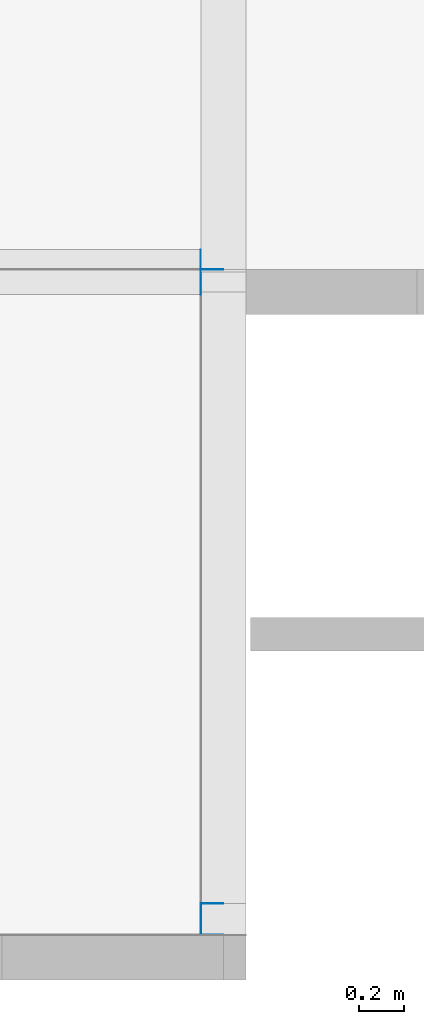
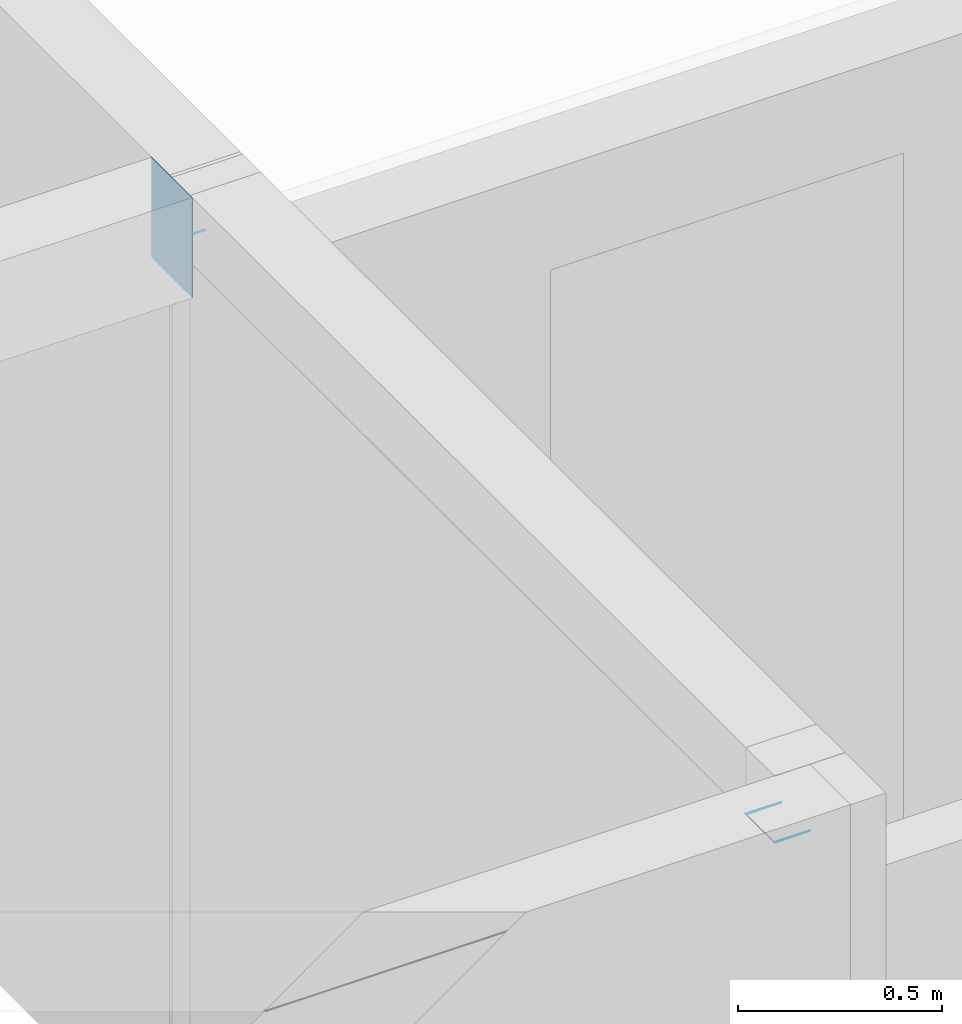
# One storey, part 4 of 11: 5 beams.
"""IFC2X3 building model written with IfcOpenShell, lengths in metres."""

import ifcopenshell
import ifcopenshell.guid

model = None  # the IFC model being written
_history = None  # IfcOwnerHistory: only IFC2X3 demands one
_inside = {}  # id of a spatial element -> (the spatial element, [elements in it])
_under = {}  # id of a project, library or spatial element -> (it, [spatial elements below it])
_declared = {}  # id of a project -> (the project, [libraries it declares])
_typed = {}  # id of a type object -> (the type object, [elements of that type])
_made_of = {}  # id of a material, layer set ... -> (it, [elements and type objects made of it])


def new_model(schema):
    """Start an empty IFC model of exactly this schema.

    Asked for "IFC4X3", IfcOpenShell would pick the latest addendum, in which some entities
    have other attributes; the version numbers below select the first issue.
    IFC2X3 requires an IfcOwnerHistory on every rooted entity: one is made here for all.
    """
    global model, _history
    if schema == "IFC4X3":
        model = ifcopenshell.file(schema_version=(4, 3, 0, 0))
    else:
        model = ifcopenshell.file(schema=schema)
    _inside.clear()
    _under.clear()
    _declared.clear()
    _typed.clear()
    _made_of.clear()
    _history = None
    if model.schema == "IFC2X3":
        org = make("IfcOrganization", Name="unknown")
        user = make(
            "IfcPersonAndOrganization",
            ThePerson=make("IfcPerson", FamilyName="unknown"),
            TheOrganization=org,
        )
        app = make(
            "IfcApplication",
            ApplicationDeveloper=org,
            Version="unknown",
            ApplicationFullName="unknown",
            ApplicationIdentifier="unknown",
        )
        _history = make(
            "IfcOwnerHistory",
            OwningUser=user,
            OwningApplication=app,
            ChangeAction="ADDED",
            CreationDate=0,
        )
    return model


def make(cls, **values):
    """One entity of the class cls with the attributes given. An attribute that is None is left unset."""
    return model.create_entity(
        cls, **{name: value for name, value in values.items() if value is not None}
    )


def rooted(cls, **values):
    """An entity with a GlobalId (a new one), such as an element, a storey or a relation."""
    return make(cls, GlobalId=ifcopenshell.guid.new(), OwnerHistory=_history, **values)


def si_unit(unit_type, name, prefix=None):
    """IfcSIUnit, for example si_unit("LENGTHUNIT", "METRE", prefix="MILLI")."""
    return make("IfcSIUnit", UnitType=unit_type, Prefix=prefix, Name=name)


def assignment(units):
    """IfcUnitAssignment: the units of a project."""
    return None if units is None else make("IfcUnitAssignment", Units=units)


def point(xyz):
    """IfcCartesianPoint."""
    return None if xyz is None else make("IfcCartesianPoint", Coordinates=xyz)


def direction(xyz):
    """IfcDirection."""
    return None if xyz is None else make("IfcDirection", DirectionRatios=xyz)


def frame(location, z_axis=None, x_axis=None):
    """IfcAxis2Placement3D, a coordinate frame: its origin and axes. An axis left out is left unset."""
    return make(
        "IfcAxis2Placement3D",
        Location=point(location),
        Axis=direction(z_axis),
        RefDirection=direction(x_axis),
    )


def origin_with_axes():
    """The frame at (0, 0, 0) with the z axis (0, 0, 1) and the x axis (1, 0, 0) written out."""
    return frame((0.0, 0.0, 0.0), z_axis=(0.0, 0.0, 1.0), x_axis=(1.0, 0.0, 0.0))


def place(relative_to, where):
    """IfcLocalPlacement: puts the frame where relative to a parent placement (None: the world)."""
    return make(
        "IfcLocalPlacement", PlacementRelTo=relative_to, RelativePlacement=where
    )


def context(
    kind, dimensions, precision=None, world=None, true_north=None, identifier=None
):
    """IfcGeometricRepresentationContext, for example the 3D "Model" context."""
    return make(
        "IfcGeometricRepresentationContext",
        ContextIdentifier=identifier,
        ContextType=kind,
        CoordinateSpaceDimension=dimensions,
        Precision=precision,
        WorldCoordinateSystem=world,
        TrueNorth=true_north,
    )


def subcontext(parent, identifier, kind, view, scale=None):
    """IfcGeometricRepresentationSubContext, for example "Body" below "Model"."""
    return make(
        "IfcGeometricRepresentationSubContext",
        ContextIdentifier=identifier,
        ContextType=kind,
        ParentContext=parent,
        TargetScale=scale,
        TargetView=view,
    )


def project(units=None, contexts=None):
    """IfcProject with its units and contexts."""
    return rooted(
        "IfcProject",
        Name="project",
        RepresentationContexts=contexts,
        UnitsInContext=assignment(units),
    )


def spatial(cls, under=None, at=None, **own):
    """A site, building, storey or space (cls), placed at a placement, below another one or the project."""
    s = rooted(cls, ObjectPlacement=at, **own)
    if under is not None:
        _under.setdefault(under.id(), (under, []))[1].append(s)
    return s


def polyline(points):
    """IfcPolyline through the points."""
    return make("IfcPolyline", Points=[point(p) for p in points])


def outline(outer, holes=None, kind="AREA"):
    """IfcArbitraryClosedProfileDef: a profile drawn as a closed curve; with holes, ...WithVoids."""
    if holes is None:
        return make("IfcArbitraryClosedProfileDef", ProfileType=kind, OuterCurve=outer)
    return make(
        "IfcArbitraryProfileDefWithVoids",
        ProfileType=kind,
        OuterCurve=outer,
        InnerCurves=holes,
    )


def extrude(swept, where, along, depth):
    """IfcExtrudedAreaSolid: the profile swept, set in the frame where, extruded along a direction by depth."""
    return make(
        "IfcExtrudedAreaSolid",
        SweptArea=swept,
        Position=where,
        ExtrudedDirection=direction(along),
        Depth=depth,
    )


def shape(context_of_items, identifier, shape_type, items):
    """IfcShapeRepresentation: the items that make up one representation, for example the "Body"."""
    return make(
        "IfcShapeRepresentation",
        ContextOfItems=context_of_items,
        RepresentationIdentifier=identifier,
        RepresentationType=shape_type,
        Items=items,
    )


def material(Name=None, Category=None):
    """IfcMaterial."""
    return make("IfcMaterial", Name=Name, Category=Category)


def made_of(thing, what):
    """Note that an element or type object is made of a material, layer set ...; save() writes the relation."""
    if what is not None:
        _made_of.setdefault(what.id(), (what, []))[1].append(thing)
    return thing


def type_object(cls, material=None, **own):
    """A type object (cls), such as IfcWallType, which elements share."""
    return made_of(rooted(cls, **own), material)


def element(
    cls,
    number,
    at=None,
    inside=None,
    cuts=None,
    type_object=None,
    material=None,
    context=None,
    identifier="Body",
    shape_type=None,
    held_by="IfcProductDefinitionShape",
    body=None,
    shapes=None,
    **own,
):
    """One element of the class cls, such as IfcWall. Its Tag is "e" and its number.

    at: its placement. inside: the storey or other place that contains it. cuts: it is an
    opening in that element (IfcRelVoidsElement). A single representation is given by context,
    identifier, shape_type and body (its items); several are given by shapes. held_by: the class
    of the entity that holds the representations. save() writes the other relations.
    """
    e = rooted(cls, Tag="e%d" % number, ObjectPlacement=at, **own)
    if body is not None:
        shapes = [shape(context, identifier, shape_type, body)]
    if shapes is not None:
        e.Representation = make(held_by, Representations=shapes)
    if inside is not None:
        _inside.setdefault(inside.id(), (inside, []))[1].append(e)
    if cuts is not None:
        rooted(
            "IfcRelVoidsElement", RelatingBuildingElement=cuts, RelatedOpeningElement=e
        )
    if type_object is not None:
        _typed.setdefault(type_object.id(), (type_object, []))[1].append(e)
    return made_of(e, material)


def aggregate(whole, parts):
    """IfcRelAggregates: a whole, such as a stair, and the parts it consists of."""
    return rooted("IfcRelAggregates", RelatingObject=whole, RelatedObjects=parts)


def save(model, path):
    """Write the relations noted so far, then the file.

    IfcRelAggregates (storeys below a building ...), IfcRelContainedInSpatialStructure (elements
    in a storey), IfcRelDefinesByType, IfcRelAssociatesMaterial and IfcRelDeclares: one each for
    every whole, place, type object, material and project.
    """
    for whole, parts in _under.values():
        aggregate(whole, parts)
    for where, things in _inside.values():
        rooted(
            "IfcRelContainedInSpatialStructure",
            RelatedElements=things,
            RelatingStructure=where,
        )
    for kind, things in _typed.values():
        rooted("IfcRelDefinesByType", RelatedObjects=things, RelatingType=kind)
    for what, things in _made_of.values():
        rooted("IfcRelAssociatesMaterial", RelatedObjects=things, RelatingMaterial=what)
    for by, libraries in _declared.values():
        rooted("IfcRelDeclares", RelatingContext=by, RelatedDefinitions=libraries)
    model.write(path)


model = new_model("IFC2X3")

# Units and contexts
model_context = context("Model", 3, precision=0.0001, world=origin_with_axes(), true_north=direction((0.0, 1.0)))
plan_context = context("Plan", 2, precision=0.0001, world=origin_with_axes(), true_north=direction((0.0, 1.0)))
body_context = subcontext(model_context, "Body", "Model", "MODEL_VIEW")
ifc_project = project(units=[si_unit("MASSUNIT", "GRAM", prefix="KILO"), si_unit("AREAUNIT", "SQUARE_METRE"), si_unit("LENGTHUNIT", "METRE"), si_unit("VOLUMEUNIT", "CUBIC_METRE")], contexts=[plan_context, model_context])

# Site, building, storey
site_placement = place(None, origin_with_axes())
site = spatial("IfcSite", under=ifc_project, at=site_placement, Name="$", CompositionType="ELEMENT")
building_placement = place(site_placement, origin_with_axes())
building = spatial("IfcBuilding", under=site, at=building_placement, Name="Classeur ENS Ensemble", CompositionType="ELEMENT")
storey_placement = place(building_placement, frame((-3.040468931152, -16.07714394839, 6.03), z_axis=(0.0, 0.0, 1.0), x_axis=(1.0, 0.0, 0.0)))
storey = spatial("IfcBuildingStorey", under=building, at=storey_placement, Name="003 R+2", CompositionType="ELEMENT", Elevation=6.03)

# Beams
ifc_material = material(Name="Default material")
beam_type = type_object("IfcBeamType", PredefinedType="BEAM")
beam_1_placement = place(storey_placement, frame((13.42597535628, 1.332143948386, 2.5), z_axis=(0.0, 0.0, 1.0), x_axis=(0.0, 1.0, 0.0)))
element("IfcBeam", 1, at=beam_1_placement, inside=storey, type_object=beam_type, material=ifc_material, Name="poutre fictive 250", context=body_context, shape_type="SweptSolid", held_by="IfcProductRepresentation", body=[
    extrude(outline(polyline([(0.0, 0.001000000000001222), (0.0, 0.001000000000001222), (0.0, 0.001000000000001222), (0.1400000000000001, 0.001000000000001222), (0.1400000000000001, 0.001000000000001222), (0.1400000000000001, 0.001000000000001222), (0.1400000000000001, -0.0009999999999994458), (0.1400000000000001, -0.0009999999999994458), (0.1400000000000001, -0.0009999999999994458), (0.0, -0.0009999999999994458), (0.0, -0.0009999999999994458), (0.0, -0.0009999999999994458), (0.0, 0.001000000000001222)])), origin_with_axes(), (0.0, 0.0, 1.0), 0.001),
])
beam_2_placement = place(storey_placement, frame((13.42597535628, 4.285654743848, 2.400000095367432), z_axis=(0.0, 0.0, 1.0), x_axis=(1.0, 0.0, 0.0)))
element("IfcBeam", 2, at=beam_2_placement, inside=storey, type_object=beam_type, material=ifc_material, Name="poutre BA 20 x 30", context=body_context, shape_type="SweptSolid", held_by="IfcProductRepresentation", body=[
    extrude(outline(polyline([(0.0, 0.1000000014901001), (0.0, 0.1000000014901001), (0.0, 0.1000000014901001), (-1.490100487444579e-09, 0.1000000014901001), (-1.490100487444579e-09, 0.1000000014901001), (-1.490100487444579e-09, 0.1000000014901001), (-1.490100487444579e-09, -0.1000000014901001), (-1.490100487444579e-09, -0.1000000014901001), (-1.490100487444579e-09, -0.1000000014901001), (0.0, -0.1000000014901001), (0.0, -0.1000000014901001), (0.0, -0.1000000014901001), (0.0, 0.1000000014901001)])), origin_with_axes(), (0.0, 0.0, 1.0), 0.300000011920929),
])
beam_3_placement = place(storey_placement, frame((13.42597535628, 1.472143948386, 2.5), z_axis=(0.0, 0.0, 1.0), x_axis=(1.0, 0.0, 0.0)))
element("IfcBeam", 3, at=beam_3_placement, inside=storey, type_object=beam_type, material=ifc_material, Name="poutre fictive 250", context=body_context, shape_type="SweptSolid", held_by="IfcProductRepresentation", body=[
    extrude(outline(polyline([(0.0, 0.0009999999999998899), (0.0, 0.0009999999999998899), (0.0, 0.0009999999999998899), (0.09999999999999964, 0.0009999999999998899), (0.09999999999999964, 0.0009999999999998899), (0.09999999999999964, 0.0009999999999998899), (0.09999999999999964, -0.001000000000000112), (0.09999999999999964, -0.001000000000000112), (0.09999999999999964, -0.001000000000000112), (0.0, -0.001000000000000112), (0.0, -0.001000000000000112), (0.0, -0.001000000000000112), (0.0, 0.0009999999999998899)])), origin_with_axes(), (0.0, 0.0, 1.0), 0.001),
])
beam_4_placement = place(storey_placement, frame((13.42597535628, 4.297143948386, 2.5), z_axis=(0.0, 0.0, 1.0), x_axis=(1.0, 0.0, 0.0)))
element("IfcBeam", 4, at=beam_4_placement, inside=storey, type_object=beam_type, material=ifc_material, Name="poutre fictive 250", context=body_context, shape_type="SweptSolid", held_by="IfcProductRepresentation", body=[
    extrude(outline(polyline([(0.0, 0.001000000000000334), (0.0, 0.001000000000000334), (0.0, 0.001000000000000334), (0.09999999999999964, 0.001000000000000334), (0.09999999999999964, 0.001000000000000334), (0.09999999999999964, 0.001000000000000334), (0.09999999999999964, -0.0009999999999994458), (0.09999999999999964, -0.0009999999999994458), (0.09999999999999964, -0.0009999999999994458), (0.0, -0.0009999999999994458), (0.0, -0.0009999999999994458), (0.0, -0.0009999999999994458), (0.0, 0.001000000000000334)])), origin_with_axes(), (0.0, 0.0, 1.0), 0.001),
])
beam_5_placement = place(storey_placement, frame((13.42597535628, 1.332143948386, 2.5), z_axis=(0.0, 0.0, 1.0), x_axis=(1.0, 0.0, 0.0)))
element("IfcBeam", 5, at=beam_5_placement, inside=storey, type_object=beam_type, material=ifc_material, Name="poutre fictive 250", context=body_context, shape_type="SweptSolid", held_by="IfcProductRepresentation", body=[
    extrude(outline(polyline([(0.0, 0.001000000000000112), (0.0, 0.001000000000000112), (0.0, 0.001000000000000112), (0.09999999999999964, 0.001000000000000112), (0.09999999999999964, 0.001000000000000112), (0.09999999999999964, 0.001000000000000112), (0.09999999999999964, -0.0009999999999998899), (0.09999999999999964, -0.0009999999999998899), (0.09999999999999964, -0.0009999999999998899), (0.0, -0.0009999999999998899), (0.0, -0.0009999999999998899), (0.0, -0.0009999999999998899), (0.0, 0.001000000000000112)])), origin_with_axes(), (0.0, 0.0, 1.0), 0.001),
])

save(model, "model.ifc")
